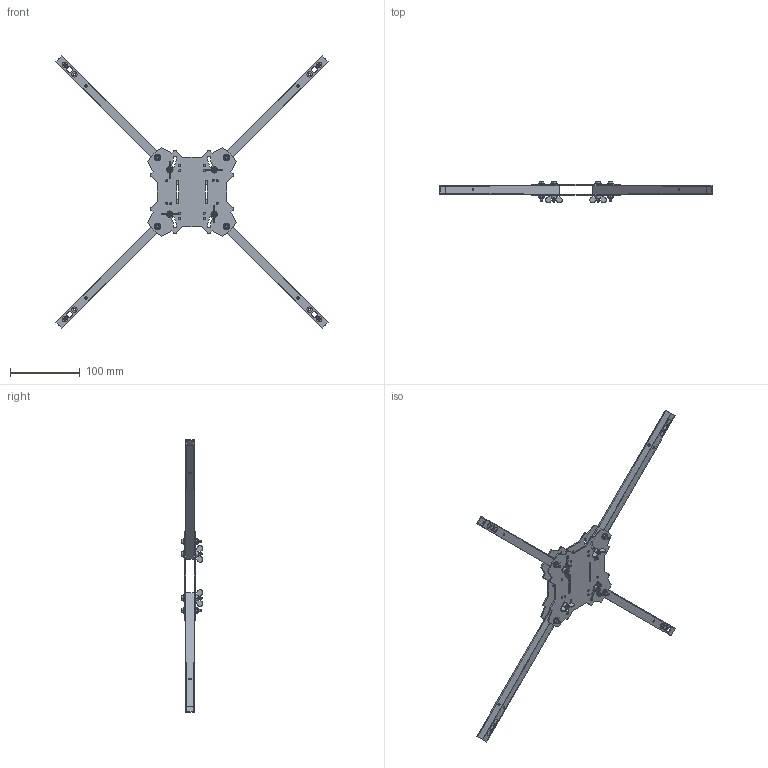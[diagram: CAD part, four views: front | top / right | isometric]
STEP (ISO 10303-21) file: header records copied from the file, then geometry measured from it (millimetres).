
FILE_DESCRIPTION(('STEP AP203'), '1');
FILE_NAME('X525.stp', '2012-11-07T13:43:48', ('UNSPECIFIED'), ('UNSPECIFIED'), 'ASCON STEP Converter 1.0', 'Kompas 3D', '');
FILE_SCHEMA(('CONFIG_CONTROL_DESIGN'));
Length unit declared in the file: millimetre
Products named in the file (8): 1; 2; 3; 4; 5; 6; 7; 8
Assembly tree (38 placements, depth 2):
  1
    2
    3
    4  x4
    5  x16
    6  x8
    7  x4
    8  x4
Bounding box: 390.11 x 31 x 390.11 mm (x, y, z)
Volume: 90804.6 mm3; surface area: 136689.6 mm2
Topology: 38 solids, 38 shells, 840 faces, 2100 edges, 1336 vertices
Faces by surface type: cylinder 376, plane 352, cone 112
Entity records: 13153 total; most frequent: CARTESIAN_POINT 2565, DIRECTION 1972, ORIENTED_EDGE 1800, EDGE_CURVE 900, AXIS2_PLACEMENT_3D 734, VERTEX_POINT 591, LINE 504, VECTOR 504
